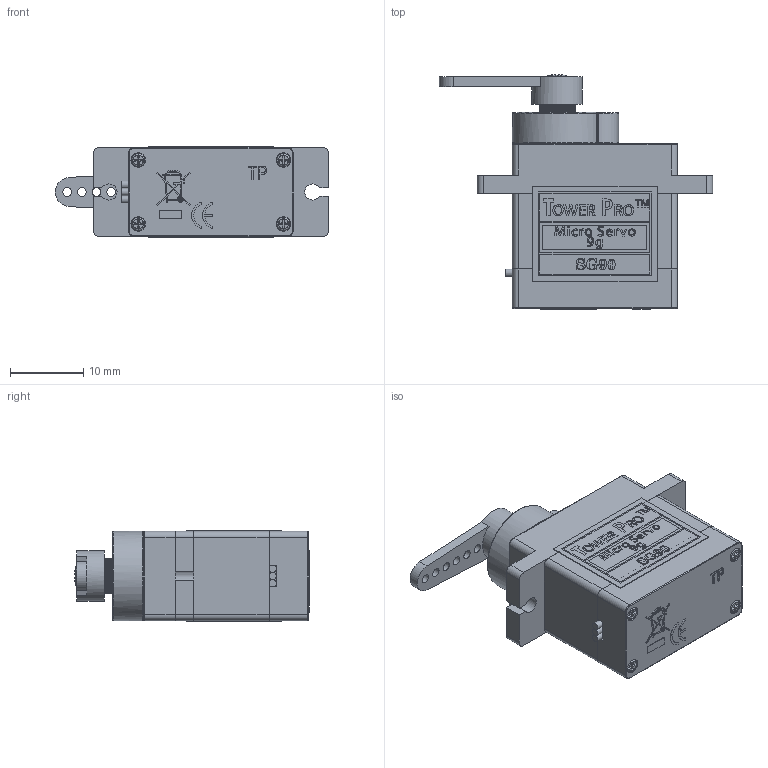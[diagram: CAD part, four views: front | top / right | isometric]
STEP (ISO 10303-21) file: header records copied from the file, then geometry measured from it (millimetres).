
FILE_DESCRIPTION(/* description */ (''),/* implementation_level */ '2;1');
FILE_NAME(/* name */ 'C:/Users/User/Desktop/SG90 - Micro Servo 9g - Tower Pro v2.step',/* time_stamp */ '2020-09-21T13:43:02+08:00',/* author */ (''),/* organization */ (''),/* preprocessor_version */ 'ST-DEVELOPER v18.1',/* originating_system */ 'Autodesk Translation Framework v9.3.0.1241',/* authorisation */ '');
FILE_SCHEMA (('AUTOMOTIVE_DESIGN { 1 0 10303 214 3 1 1 }'));
Length unit declared in the file: millimetre
Products named in the file (4): SG90 - Micro Servo 9g - Tower Pro; SG90 - Micro Servo 9g - Tower Pro_1; SG90 - Micro Servo 9g - Tower Pro (1); SG90 - Micro Servo 9g - Tower Pro (5)
Assembly tree (3 placements, depth 2):
  SG90 - Micro Servo 9g - Tower Pro
    SG90 - Micro Servo 9g - Tower Pro_1
    SG90 - Micro Servo 9g - Tower Pro (1)
    SG90 - Micro Servo 9g - Tower Pro (5)
Bounding box: 37.25 x 32.03 x 12.4 mm (x, y, z)
Volume: 7218.3 mm3; surface area: 5377.6 mm2
Topology: 15 solids, 15 shells, 871 faces, 2895 edges, 2167 vertices
Faces by surface type: plane 582, cylinder 208, torus 28, cone 27, bspline 23, sphere 3
Full cylindrical faces by diameter (mm): 0.2 x1, 0.5 x1, 1 x3, 1.2 x6, 1.6 x2, 1.8 x4, 2 x13, 2.1 x1, 3.1 x1, 4.6 x1, 5 x1, 6.9 x1
Entity records: 39323 total; most frequent: CARTESIAN_POINT 13816, ORIENTED_EDGE 5784, DIRECTION 4564, EDGE_CURVE 2892, VERTEX_POINT 2167, LINE 1734, VECTOR 1734, AXIS2_PLACEMENT_3D 1415
